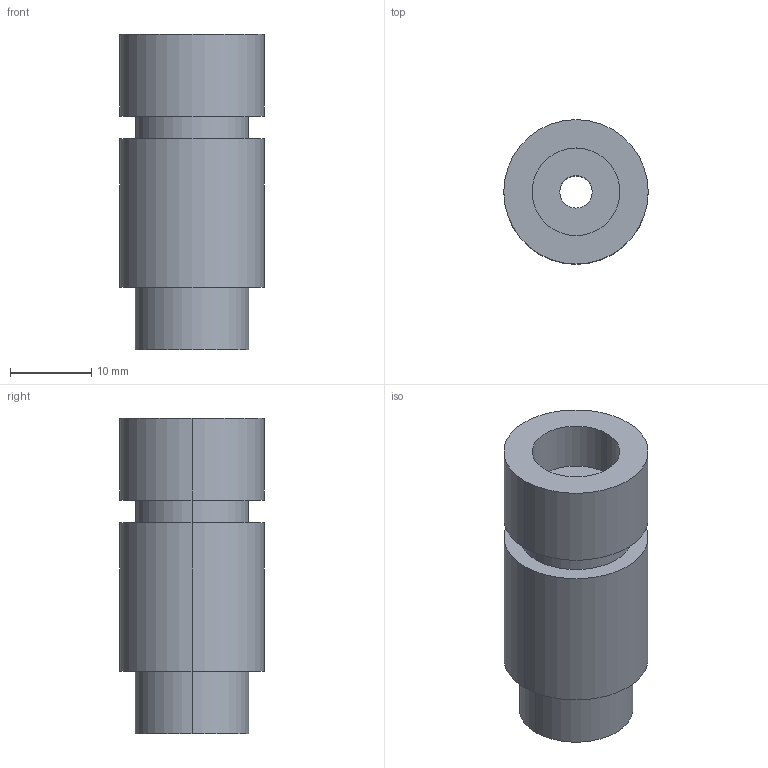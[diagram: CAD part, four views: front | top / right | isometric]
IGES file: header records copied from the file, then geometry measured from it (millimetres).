
Start section: SolidWorks IGES file using analytic representation for surfaces
Global section: file name: \\intra-srv04\開発データ\CAD_Data\CAD委員会\3D電子ｶﾀﾛｸﾞ\製品カタログ（新）\0_IGES\ER-VAJK.IGS,41HSolidWorks 2005; native system: by SolidWorks Corporation; preprocessor: SolidWorks 2005 by SolidWorks Corporation; author: yk0651; date: 060119.094543; units: millimetre
Bounding box: 17.8 x 17.8 x 38.9 mm (x, y, z)
Volume: 7714.3 mm3; surface area: 3332.8 mm2
Topology: 1 solids, 1 shells, 18 faces, 36 edges, 24 vertices
Faces by surface type: revolution 12, plane 6
